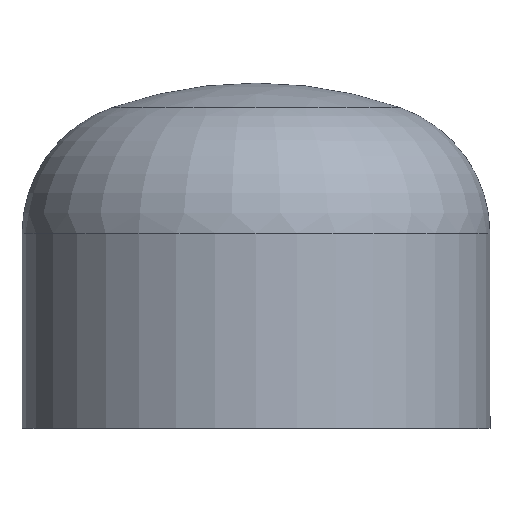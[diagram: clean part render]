
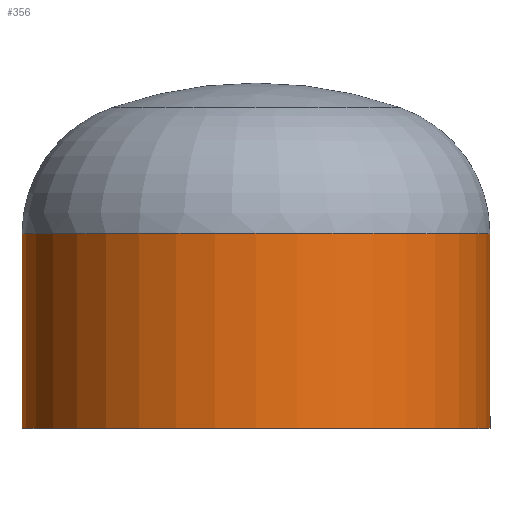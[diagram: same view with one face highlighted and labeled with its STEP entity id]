
A CAD part, top view. The second image highlights one B-rep face of the part: STEP entity #356.
In plain terms, the highlighted cylindrical face has radius 84.15 mm (diameter 168.3 mm), a partial arc.
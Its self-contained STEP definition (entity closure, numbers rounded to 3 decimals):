
#11 = VERTEX_POINT ( 'NONE', #246 ) ;
#14 = EDGE_LOOP ( 'NONE', ( #60, #73, #302, #117 ) ) ;
#40 = VERTEX_POINT ( 'NONE', #202 ) ;
#51 = VERTEX_POINT ( 'NONE', #186 ) ;
#54 = VECTOR ( 'NONE', #365, 1000. ) ;
#59 = VERTEX_POINT ( 'NONE', #192 ) ;
#60 = ORIENTED_EDGE ( 'NONE', *, *, #166, .T. ) ;
#68 = LINE ( 'NONE', #213, #54 ) ;
#73 = ORIENTED_EDGE ( 'NONE', *, *, #137, .T. ) ;
#89 = DIRECTION ( 'NONE',  ( 0., -1., 0. ) ) ;
#94 = AXIS2_PLACEMENT_3D ( 'NONE', #290, #135, #308 ) ;
#117 = ORIENTED_EDGE ( 'NONE', *, *, #388, .F. ) ;
#123 = DIRECTION ( 'NONE',  ( 1., 0., 0. ) ) ;
#128 = AXIS2_PLACEMENT_3D ( 'NONE', #251, #254, #123 ) ;
#135 = DIRECTION ( 'NONE',  ( 0., -1., 0. ) ) ;
#137 = EDGE_CURVE ( 'NONE', #51, #59, #243, .T. ) ;
#140 = EDGE_CURVE ( 'NONE', #11, #59, #168, .T. ) ;
#166 = EDGE_CURVE ( 'NONE', #40, #51, #221, .T. ) ;
#168 = CIRCLE ( 'NONE', #128, 84.15 ) ;
#175 = DIRECTION ( 'NONE',  ( 0., -1., 0. ) ) ;
#181 = CARTESIAN_POINT ( 'NONE',  ( -84.15, 0., 0. ) ) ;
#186 = CARTESIAN_POINT ( 'NONE',  ( -84.15, 70., 0. ) ) ;
#192 = CARTESIAN_POINT ( 'NONE',  ( -84.15, 0., 0. ) ) ;
#202 = CARTESIAN_POINT ( 'NONE',  ( 84.15, 70., 0. ) ) ;
#213 = CARTESIAN_POINT ( 'NONE',  ( 84.15, 0., 0. ) ) ;
#221 = CIRCLE ( 'NONE', #94, 84.15 ) ;
#237 = CARTESIAN_POINT ( 'NONE',  ( 0., 0., 0. ) ) ;
#243 = LINE ( 'NONE', #181, #339 ) ;
#246 = CARTESIAN_POINT ( 'NONE',  ( 84.15, 0., 0. ) ) ;
#251 = CARTESIAN_POINT ( 'NONE',  ( 0., 0., 0. ) ) ;
#254 = DIRECTION ( 'NONE',  ( 0., -1., 0. ) ) ;
#267 = CYLINDRICAL_SURFACE ( 'NONE', #321, 84.15 ) ;
#290 = CARTESIAN_POINT ( 'NONE',  ( 0., 70., 0. ) ) ;
#299 = FACE_OUTER_BOUND ( 'NONE', #14, .T. ) ;
#302 = ORIENTED_EDGE ( 'NONE', *, *, #140, .F. ) ;
#308 = DIRECTION ( 'NONE',  ( 1., 0., 0. ) ) ;
#321 = AXIS2_PLACEMENT_3D ( 'NONE', #237, #89, #382 ) ;
#339 = VECTOR ( 'NONE', #175, 1000. ) ;
#356 = ADVANCED_FACE ( 'NONE', ( #299 ), #267, .T. ) ;
#365 = DIRECTION ( 'NONE',  ( 0., -1., 0. ) ) ;
#382 = DIRECTION ( 'NONE',  ( 1., 0., 0. ) ) ;
#388 = EDGE_CURVE ( 'NONE', #40, #11, #68, .T. ) ;
